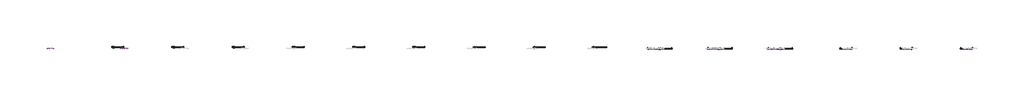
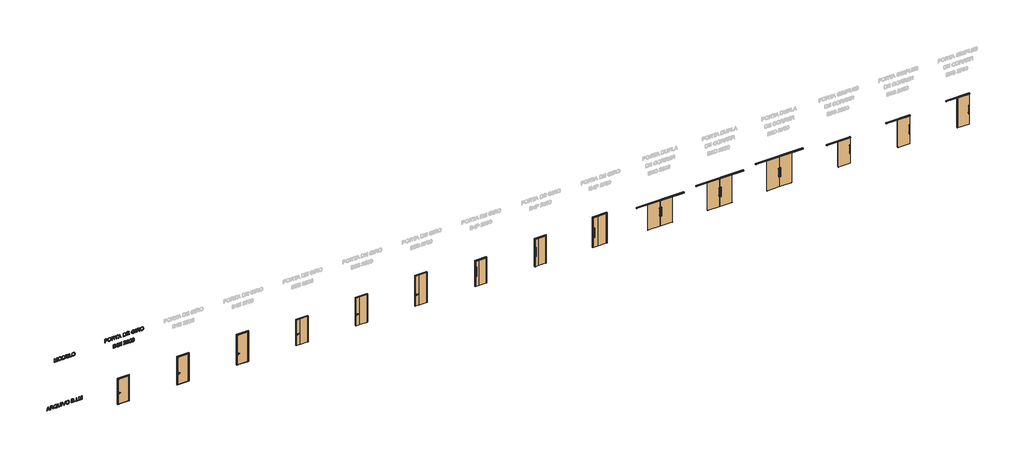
# One storey, part 1 of 13: 15 doors, 3 proxies.
"""IFC4 building model written with IfcOpenShell, lengths in millimetres."""

from ifc_helpers import new_model, si_unit, frame, origin, place, context, project, spatial, polyline, outline, extrude, transform, mapped, element, save
from components import b1e_2300_1c88b490, b1e_2500_260b8c9e, b1e_2700_324aea1f, b2d_2300_d5e7e25e, b2d_2500_7e9c2a50, b2d_2700_ec47df85, b2s_2300_ca406560, b2s_2500_bd1d7df3, b2s_2700_7e7753ac, b4p_2300_ee545821, b4p_2500_df99608c, b4p_2700_b218b246, b5s_2300_fc662f62, b5s_2500_13a7fe8a, b5s_2700_1f91ca55

model = new_model("IFC4")

# Units and contexts
model_context = context("Model", 3, world=origin())
ifc_project = project(units=[si_unit("LENGTHUNIT", "METRE", prefix="MILLI")], contexts=[model_context])

# Site, building, storey
site = spatial("IfcSite", under=ifc_project)
building = spatial("IfcBuilding", under=site)
storey = spatial("IfcBuildingStorey", under=building, Name="02 - Marelli - Planta Baixa - Portas", Elevation=-12000.0)

# Proxies
placement = place(None, origin())
element("IfcBuildingElementProxy", 1, Name="300mm Arial", ObjectType="300mm Arial", at=placement, inside=storey, context=model_context, shape_type="SweptSolid", body=[
    extrude(outline(polyline([(-10400.0, -7636.3146377), (-10400.0, -7596.5098058), (-10305.8222092, -7562.076051), (-10305.8222092, -7437.9526659), (-10400.0, -7403.4453347), (-10400.0, -7363.6405028), (-10098.6310696, -7483.9379153), (-10098.6310696, -7516.0172252), (-10400.0, -7636.3146377)]), holes=[polyline([(-10268.1510929, -7548.243688), (-10187.584936, -7518.739552), (-10136.3021859, -7499.9775703), (-10194.0596591, -7478.8611437), (-10268.1510929, -7451.7114525), (-10268.1510929, -7548.243688)])]), frame((0.0, 8778.3159498, 0.0), z_axis=(0.0, 1.0, 0.0), x_axis=(0.0, 0.0, 1.0)), (0.0, 0.0, 1.0), 10.0),
    extrude(outline(polyline([(-10400.0, -7323.3942126), (-10400.0, -7285.7230963), (-10268.1510929, -7285.7230963), (-10268.1510929, -7240.2528817), (-10269.4754681, -7218.4006911), (-10276.649167, -7200.484838), (-10296.183701, -7180.582422), (-10337.5336372, -7152.2555084), (-10400.0, -7113.0392877), (-10400.0, -7069.2613303), (-10318.3301971, -7119.5140108), (-10279.5554348, -7150.0482164), (-10263.4422034, -7171.4589486), (-10253.4542072, -7134.3488523), (-10245.4389783, -7119.9669655), (-10235.4095954, -7108.3671864), (-10210.7982899, -7093.0540983), (-10181.1102129, -7087.9497357), (-10157.2438684, -7091.0307474), (-10135.5296337, -7100.2737825), (-10118.0184507, -7114.6763626), (-10106.7612616, -7133.2360093), (-10100.6636176, -7158.629064), (-10098.6310696, -7193.5318683), (-10098.6310696, -7323.3942126), (-10400.0, -7323.3942126)]), holes=[polyline([(-10230.4799766, -7285.7230963), (-10136.3021859, -7285.7230963), (-10136.3021859, -7191.9131875), (-10139.5579415, -7162.1055488), (-10149.3252085, -7141.5501423), (-10164.1324588, -7129.6031746), (-10182.5081645, -7125.620852), (-10195.8162956, -7127.7085823), (-10208.0759631, -7133.9717732), (-10218.2111121, -7144.254075), (-10225.1456877, -7158.3991377), (-10229.1464044, -7177.1887106), (-10230.4799766, -7201.404543), (-10230.4799766, -7285.7230963)])]), frame((0.0, 8778.3159498, 0.0), z_axis=(0.0, 1.0, 0.0), x_axis=(0.0, 0.0, 1.0)), (0.0, 0.0, 1.0), 10.0),
    extrude(outline(polyline([(-10363.8739881, -6795.6307023), (-10340.3479345, -6777.1814202), (-10313.0326963, -6764.0664271), (-10281.9650618, -6756.2305406), (-10247.1818192, -6753.6185784), (-10205.3536364, -6757.9227978), (-10168.0136138, -6770.8354558), (-10136.8172207, -6791.9610794), (-10113.4199258, -6820.9041954), (-10098.7966164, -6855.7702114), (-10093.92218, -6894.6645354), (-10098.6862519, -6933.2553567), (-10112.9784674, -6967.9466288), (-10136.3849593, -6996.93573), (-10168.4918604, -7018.4200386), (-10206.944726, -7031.7189727), (-10249.3891112, -7036.1519507), (-10291.7967082, -7031.7097756), (-10329.6977507, -7018.3832504), (-10361.3539964, -6996.8161684), (-10385.0272028, -6967.6523232), (-10399.7884679, -6932.8322924), (-10404.7088895, -6894.2966534), (-10400.4414584, -6855.9449554), (-10387.639165, -6821.0881364), (-10408.47968, -6790.1308665), (-10422.8822601, -6759.063232), (-10395.2911105, -6748.9096889), (-10382.4704229, -6771.2953083), (-10363.8739881, -6795.6307023)]), holes=[polyline([(-10313.7684603, -6883.9223811), (-10342.6104088, -6893.6344658), (-10349.287467, -6873.2721974), (-10359.3122513, -6853.9767867), (-10365.1063928, -6873.6032912), (-10367.0377732, -6894.5173826), (-10365.1362832, -6916.2385151), (-10359.431813, -6935.9316982), (-10349.9243627, -6953.5969318), (-10336.6139322, -6969.2342158), (-10319.748842, -6982.0296115), (-10299.5774124, -6991.1691798), (-10276.0996433, -6996.6529208), (-10249.3155348, -6998.4808344), (-10221.8140564, -6996.6322274), (-10197.9500112, -6991.0864063), (-10177.7233993, -6981.8433712), (-10161.1342205, -6968.903122), (-10148.2100662, -6953.1577726), (-10138.9785274, -6935.4994369), (-10133.4396041, -6915.9281147), (-10131.5932963, -6894.4438062), (-10135.2445251, -6865.9605427), (-10146.1982115, -6840.4019411), (-10163.7645768, -6819.2027411), (-10187.2538422, -6803.7976826), (-10215.9394408, -6794.4166917), (-10249.0948056, -6791.2896947), (-10278.2678478, -6793.5015852), (-10303.5413409, -6800.1372567), (-10324.9152848, -6811.1967092), (-10342.3896796, -6826.6799427), (-10325.7430193, -6852.2477413), (-10313.7684603, -6883.9223811)])]), frame((0.0, 8778.3159498, 0.0), z_axis=(0.0, 1.0, 0.0), x_axis=(0.0, 0.0, 1.0)), (0.0, 0.0, 1.0), 10.0),
    extrude(outline(polyline([(-10098.6310696, -6499.3385434), (-10271.1677253, -6499.3385434), (-10318.3301971, -6504.1026152), (-10335.0688279, -6510.057705), (-10347.2457219, -6518.3948307), (-10355.9047444, -6529.5278596), (-10362.0897604, -6543.8706589), (-10367.0377732, -6582.1855687), (-10364.5361757, -6606.3554158), (-10357.031383, -6626.4785609), (-10344.9188683, -6641.9112106), (-10328.5941047, -6652.0095714), (-10305.0220659, -6657.5829836), (-10271.1677253, -6659.4407877), (-10098.6310696, -6659.4407877), (-10098.6310696, -6697.111904), (-10272.4921005, -6697.111904), (-10315.2675795, -6694.2516215), (-10347.9446977, -6685.6707739), (-10372.3076828, -6670.4036711), (-10390.1407625, -6647.4846228), (-10401.0668578, -6616.904432), (-10404.7088895, -6578.6539015), (-10400.5242318, -6539.5480454), (-10387.9702588, -6508.7563224), (-10368.7484245, -6486.2235502), (-10344.5601833, -6471.8945465), (-10313.2074403, -6464.2242069), (-10272.4921005, -6461.6674271), (-10098.6310696, -6461.6674271), (-10098.6310696, -6499.3385434)])), frame((0.0, 8778.3159498, 0.0), z_axis=(0.0, 1.0, 0.0), x_axis=(0.0, 0.0, 1.0)), (0.0, 0.0, 1.0), 10.0),
    extrude(outline(polyline([(-6353.3629677, 8778.3159498), (-6391.034084, 8778.3159498), (-6391.034084, 8788.3159498), (-6353.3629677, 8788.3159498), (-6353.3629677, 8778.3159498)])), frame((0.0, 0.0, -10400.0), z_axis=(0.0, 0.0, 1.0), x_axis=(1.0, 0.0, 0.0)), (0.0, 0.0, 1.0), 301.3689304),
    extrude(outline(polyline([(-10400.0, -6188.9932922), (-10400.0, -6150.0713771), (-10098.6310696, -6035.2186183), (-10098.6310696, -6075.5384849), (-10315.7550231, -6156.0310655), (-10364.6833285, -6172.0707205), (-10315.7550231, -6188.3311046), (-10098.6310696, -6268.602956), (-10098.6310696, -6308.9228227), (-10400.0, -6188.9932922)])), frame((0.0, 8778.3159498, 0.0), z_axis=(0.0, 1.0, 0.0), x_axis=(0.0, 0.0, 1.0)), (0.0, 0.0, 1.0), 10.0),
    extrude(outline(polyline([(-10253.2886603, -6014.3229209), (-10291.8334964, -6010.0187016), (-10328.2997991, -5997.1060436), (-10359.992833, -5975.8424642), (-10384.2178624, -5946.485481), (-10399.5861328, -5910.8377157), (-10404.7088895, -5870.70179), (-10400.0735764, -5832.892718), (-10386.167637, -5797.7507904), (-10363.2485887, -5767.7868019), (-10331.5739489, -5745.5115471), (-10293.1118863, -5731.6883811), (-10249.8305696, -5727.0806591), (-10207.1194699, -5731.4584548), (-10169.1908362, -5744.5918421), (-10137.5713787, -5766.0761506), (-10113.7878078, -5795.5067102), (-10098.8885869, -5830.9521404), (-10093.92218, -5870.4810608), (-10096.5663319, -5900.7715446), (-10104.4987874, -5928.1465636), (-10117.7195466, -5952.6061177), (-10136.2286095, -5974.1502071), (-10159.4097737, -5991.7257694), (-10186.6468369, -6004.2797425), (-10217.9397991, -6011.8121263), (-10253.2886603, -6014.3229209)]), holes=[polyline([(-10253.6565423, -5976.6518046), (-10223.1200375, -5974.6882345), (-10197.2878236, -5968.797524), (-10176.1599008, -5958.9796733), (-10159.736269, -5945.2346822), (-10147.4237184, -5928.7673644), (-10138.6290395, -5910.7825334), (-10133.3522321, -5891.2801891), (-10131.5932963, -5870.2603316), (-10135.2445251, -5841.0964864), (-10146.1982115, -5814.9676677), (-10163.7921679, -5793.3086153), (-10187.3642068, -5777.5540688), (-10216.1877611, -5767.9523488), (-10249.536264, -5764.7517754), (-10276.0743514, -5766.6210758), (-10299.4026684, -5772.228977), (-10319.521215, -5781.5754789), (-10336.4299912, -5794.6605816), (-10349.8208959, -5810.642755), (-10359.3858277, -5828.6804691), (-10365.1247869, -5848.7737238), (-10367.0377732, -5870.9225192), (-10365.143181, -5892.6988341), (-10359.4594041, -5912.557564), (-10349.9864428, -5930.4987091), (-10336.7242968, -5946.5222692), (-10320.1650085, -5959.703941), (-10300.80062, -5969.1194208), (-10278.6311313, -5974.7687087), (-10253.6565423, -5976.6518046)])]), frame((0.0, 8778.3159498, 0.0), z_axis=(0.0, 1.0, 0.0), x_axis=(0.0, 0.0, 1.0)), (0.0, 0.0, 1.0), 10.0),
    extrude(outline(polyline([(-10400.0, -5557.5606357), (-10400.0, -5443.4436408), (-10394.8128639, -5395.1407348), (-10388.3933231, -5377.10532), (-10379.5089729, -5362.3624491), (-10367.2401083, -5350.3235108), (-10350.6670244, -5340.399894), (-10331.1784758, -5333.7504269), (-10310.1632168, -5331.5339379), (-10284.944906, -5334.7804965), (-10263.2950506, -5344.5201723), (-10246.3356906, -5360.2931129), (-10235.1888662, -5381.6394656), (-10223.4442335, -5363.7695977), (-10208.5174215, -5351.0684718), (-10191.456894, -5343.4809057), (-10173.3111146, -5340.951717), (-10153.5926396, -5343.9591523), (-10134.7570815, -5352.9814582), (-10118.7450176, -5367.3104619), (-10107.4970256, -5386.2379906), (-10100.8475586, -5410.9320695), (-10098.6310696, -5442.560724), (-10098.6310696, -5557.5606357), (-10400.0, -5557.5606357)]), holes=[polyline([(-10221.0621975, -5519.8895194), (-10136.3021859, -5519.8895194), (-10136.3021859, -5456.3195106), (-10140.2385232, -5407.9062401), (-10145.8395266, -5395.4166463), (-10154.769862, -5386.2012024), (-10166.2109921, -5380.5174255), (-10179.3443793, -5378.6228333), (-10192.8732397, -5380.6553813), (-10203.8821084, -5386.7530254), (-10212.2422267, -5396.8605832), (-10217.824836, -5410.9228724), (-10221.0621975, -5451.0955863), (-10221.0621975, -5519.8895194)]), polyline([(-10362.3288837, -5519.8895194), (-10258.7333139, -5519.8895194), (-10258.7333139, -5446.3131204), (-10259.9933097, -5419.4853259), (-10263.7732972, -5399.776048), (-10270.6618875, -5385.8609115), (-10281.247692, -5376.4155413), (-10294.7857494, -5371.007676), (-10310.5310988, -5369.2050542), (-10324.0875503, -5370.7409615), (-10335.9149564, -5375.3486835), (-10352.6535872, -5391.0204565), (-10360.8573557, -5414.6752688), (-10362.3288837, -5442.6343004), (-10362.3288837, -5519.8895194)])]), frame((0.0, 8778.3159498, 0.0), z_axis=(0.0, 1.0, 0.0), x_axis=(0.0, 0.0, 1.0)), (0.0, 0.0, 1.0), 10.0),
    extrude(outline(polyline([(-5237.3561471, 8778.3159498), (-5275.0272634, 8778.3159498), (-5275.0272634, 8788.3159498), (-5237.3561471, 8788.3159498), (-5237.3561471, 8778.3159498)])), frame((0.0, 0.0, -10400.0), z_axis=(0.0, 0.0, 1.0), x_axis=(1.0, 0.0, 0.0)), (0.0, 0.0, 1.0), 37.6711163),
    extrude(outline(polyline([(-5119.6339087, 8778.3159498), (-5157.305025, 8778.3159498), (-5157.305025, 8788.3159498), (-5119.6339087, 8788.3159498), (-5119.6339087, 8778.3159498)])), frame((0.0, 0.0, -10400.0), z_axis=(0.0, 0.0, 1.0), x_axis=(1.0, 0.0, 0.0)), (0.0, 0.0, 1.0), 301.3689304),
    extrude(outline(polyline([(-5001.9116702, 8778.3159498), (-5039.5827865, 8778.3159498), (-5039.5827865, 8788.3159498), (-5001.9116702, 8788.3159498), (-5001.9116702, 8778.3159498)])), frame((0.0, 0.0, -10400.0), z_axis=(0.0, 0.0, 1.0), x_axis=(1.0, 0.0, 0.0)), (0.0, 0.0, 1.0), 37.6711163),
    extrude(outline(polyline([(-10400.0, -4926.5694376), (-10400.0, -4888.8983213), (-10136.3021859, -4888.8983213), (-10400.0, -4813.1882067), (-10400.0, -4762.1261857), (-10136.3021859, -4686.4160711), (-10400.0, -4686.4160711), (-10400.0, -4648.7449548), (-10098.6310696, -4648.7449548), (-10098.6310696, -4713.5657624), (-10307.3673136, -4774.1927152), (-10355.4127022, -4787.6571962), (-10311.0461336, -4800.0916076), (-10098.6310696, -4861.74863), (-10098.6310696, -4926.5694376), (-10400.0, -4926.5694376)])), frame((0.0, 8778.3159498, 0.0), z_axis=(0.0, 1.0, 0.0), x_axis=(0.0, 0.0, 1.0)), (0.0, 0.0, 1.0), 10.0),
])
element("IfcBuildingElementProxy", 2, Name="300mm Arial", ObjectType="300mm Arial", at=placement, inside=storey, context=model_context, shape_type="SweptSolid", body=[
    extrude(outline(polyline([(-6300.0, -6993.7719449), (-6300.0, -6956.1008286), (-6036.3021859, -6956.1008286), (-6300.0, -6880.390714), (-6300.0, -6829.328693), (-6036.3021859, -6753.6185784), (-6300.0, -6753.6185784), (-6300.0, -6715.9474621), (-5998.6310696, -6715.9474621), (-5998.6310696, -6780.7682697), (-6207.3673136, -6841.3952225), (-6255.4127022, -6854.8597035), (-6211.0461336, -6867.2941149), (-5998.6310696, -6928.9511373), (-5998.6310696, -6993.7719449), (-6300.0, -6993.7719449)])), frame((0.0, 8778.3159498, 0.0), z_axis=(0.0, 1.0, 0.0), x_axis=(0.0, 0.0, 1.0)), (0.0, 0.0, 1.0), 10.0),
    extrude(outline(polyline([(-6153.2886603, -6664.1496772), (-6191.8334964, -6659.8454579), (-6228.2997991, -6646.9327998), (-6259.992833, -6625.6692205), (-6284.2178624, -6596.3122373), (-6299.5861328, -6560.664472), (-6304.7088895, -6520.5285463), (-6300.0735764, -6482.7194742), (-6286.167637, -6447.5775466), (-6263.2485887, -6417.6135581), (-6231.5739489, -6395.3383033), (-6193.1118863, -6381.5151374), (-6149.8305696, -6376.9074154), (-6107.1194699, -6381.2852111), (-6069.1908362, -6394.4185983), (-6037.5713787, -6415.9029069), (-6013.7878078, -6445.3334665), (-5998.8885869, -6480.7788967), (-5993.92218, -6520.3078171), (-5996.5663319, -6550.5983009), (-6004.4987874, -6577.9733198), (-6017.7195466, -6602.432874), (-6036.2286095, -6623.9769633), (-6059.4097737, -6641.5525257), (-6086.6468369, -6654.1064987), (-6117.9397991, -6661.6388826), (-6153.2886603, -6664.1496772)]), holes=[polyline([(-6153.6565423, -6626.4785609), (-6123.1200375, -6624.5149908), (-6097.2878236, -6618.6242803), (-6076.1599008, -6608.8064296), (-6059.736269, -6595.0614385), (-6047.4237184, -6578.5941207), (-6038.6290395, -6560.6092897), (-6033.3522321, -6541.1069454), (-6031.5932963, -6520.0870879), (-6035.2445251, -6490.9232427), (-6046.1982115, -6464.794424), (-6063.7921679, -6443.1353716), (-6087.3642068, -6427.3808251), (-6116.1877611, -6417.779105), (-6149.536264, -6414.5785317), (-6176.0743514, -6416.4478321), (-6199.4026684, -6422.0557332), (-6219.521215, -6431.4022352), (-6236.4299912, -6444.4873379), (-6249.8208959, -6460.4695113), (-6259.3858277, -6478.5072254), (-6265.1247869, -6498.6004801), (-6267.0377732, -6520.7492755), (-6265.143181, -6542.5255903), (-6259.4594041, -6562.3843203), (-6249.9864428, -6580.3254653), (-6236.7242968, -6596.3490255), (-6220.1650085, -6609.5306972), (-6200.80062, -6618.9461771), (-6178.6311313, -6624.5954649), (-6153.6565423, -6626.4785609)])]), frame((0.0, 8778.3159498, 0.0), z_axis=(0.0, 1.0, 0.0), x_axis=(0.0, 0.0, 1.0)), (0.0, 0.0, 1.0), 10.0),
    extrude(outline(polyline([(-6300.0, -6325.1096305), (-6300.0, -6216.1429835), (-6294.8496521, -6167.6929247), (-6288.4944906, -6148.1491937), (-6279.7297021, -6131.6772774), (-6267.911493, -6117.3298796), (-6252.3960698, -6104.1597042), (-6232.7419742, -6092.7185741), (-6208.5077478, -6083.5583124), (-6180.0428784, -6077.5434418), (-6147.696854, -6075.5384849), (-6109.6210675, -6078.499935), (-6076.0334413, -6087.3842852), (-6047.4857985, -6102.2283237), (-6024.529962, -6123.0688387), (-6011.3413925, -6143.3391366), (-6002.9720771, -6167.3618309), (-5998.6310696, -6221.1461786), (-5998.6310696, -6325.1096305), (-6300.0, -6325.1096305)]), holes=[polyline([(-6262.3288837, -6287.4385141), (-6036.3021859, -6287.4385141), (-6036.3021859, -6221.8083662), (-6037.810502, -6190.06015), (-6042.3354506, -6168.3919005), (-6054.9170148, -6147.10073), (-6075.7391357, -6129.2860444), (-6106.0526121, -6117.228712), (-6147.1082428, -6113.2096012), (-6178.0931038, -6115.2605434), (-6204.0931639, -6121.4133697), (-6225.2003933, -6131.245016), (-6241.5067628, -6144.332418), (-6250.3175366, -6156.5093121), (-6256.8842302, -6172.2914497), (-6260.9677203, -6193.2055411), (-6262.3288837, -6220.7782966), (-6262.3288837, -6287.4385141)])]), frame((0.0, 8778.3159498, 0.0), z_axis=(0.0, 1.0, 0.0), x_axis=(0.0, 0.0, 1.0)), (0.0, 0.0, 1.0), 10.0),
    extrude(outline(polyline([(-6300.0, -6023.7407), (-6300.0, -5802.4228917), (-6262.3288837, -5802.4228917), (-6262.3288837, -5986.0695837), (-6163.4422034, -5986.0695837), (-6163.4422034, -5816.5495603), (-6125.7710871, -5816.5495603), (-6125.7710871, -5986.0695837), (-6036.3021859, -5986.0695837), (-6036.3021859, -5807.1317812), (-5998.6310696, -5807.1317812), (-5998.6310696, -6023.7407), (-6300.0, -6023.7407)])), frame((0.0, 8778.3159498, 0.0), z_axis=(0.0, 1.0, 0.0), x_axis=(0.0, 0.0, 1.0)), (0.0, 0.0, 1.0), 10.0),
    extrude(outline(polyline([(-6300.0, -5745.9162172), (-6300.0, -5557.5606357), (-6262.3288837, -5557.5606357), (-6262.3288837, -5708.2451009), (-5998.6310696, -5708.2451009), (-5998.6310696, -5745.9162172), (-6300.0, -5745.9162172)])), frame((0.0, 8778.3159498, 0.0), z_axis=(0.0, 1.0, 0.0), x_axis=(0.0, 0.0, 1.0)), (0.0, 0.0, 1.0), 10.0),
    extrude(outline(polyline([(-6153.2886603, -5529.3072985), (-6191.8334964, -5525.0030791), (-6228.2997991, -5512.0904211), (-6259.992833, -5490.8268418), (-6284.2178624, -5461.4698586), (-6299.5861328, -5425.8220932), (-6304.7088895, -5385.6861676), (-6300.0735764, -5347.8770955), (-6286.167637, -5312.7351679), (-6263.2485887, -5282.7711794), (-6231.5739489, -5260.4959246), (-6193.1118863, -5246.6727586), (-6149.8305696, -5242.0650367), (-6107.1194699, -5246.4428324), (-6069.1908362, -5259.5762196), (-6037.5713787, -5281.0605281), (-6013.7878078, -5310.4910878), (-5998.8885869, -5345.936518), (-5993.92218, -5385.4654384), (-5996.5663319, -5415.7559222), (-6004.4987874, -5443.1309411), (-6017.7195466, -5467.5904953), (-6036.2286095, -5489.1345846), (-6059.4097737, -5506.7101469), (-6086.6468369, -5519.26412), (-6117.9397991, -5526.7965039), (-6153.2886603, -5529.3072985)]), holes=[polyline([(-6153.6565423, -5491.6361822), (-6123.1200375, -5489.672612), (-6097.2878236, -5483.7819016), (-6076.1599008, -5473.9640508), (-6059.736269, -5460.2190598), (-6047.4237184, -5443.751742), (-6038.6290395, -5425.7669109), (-6033.3522321, -5406.2645667), (-6031.5932963, -5385.2447092), (-6035.2445251, -5356.080864), (-6046.1982115, -5329.9520453), (-6063.7921679, -5308.2929928), (-6087.3642068, -5292.5384464), (-6116.1877611, -5282.9367263), (-6149.536264, -5279.736153), (-6176.0743514, -5281.6054533), (-6199.4026684, -5287.2133545), (-6219.521215, -5296.5598565), (-6236.4299912, -5309.6449592), (-6249.8208959, -5325.6271326), (-6259.3858277, -5343.6648467), (-6265.1247869, -5363.7581014), (-6267.0377732, -5385.9068968), (-6265.143181, -5407.6832116), (-6259.4594041, -5427.5419416), (-6249.9864428, -5445.4830866), (-6236.7242968, -5461.5066468), (-6220.1650085, -5474.6883185), (-6200.80062, -5484.1037983), (-6178.6311313, -5489.7530862), (-6153.6565423, -5491.6361822)])]), frame((0.0, 8778.3159498, 0.0), z_axis=(0.0, 1.0, 0.0), x_axis=(0.0, 0.0, 1.0)), (0.0, 0.0, 1.0), 10.0),
])
element("IfcBuildingElementProxy", 3, Name="300mm Arial", ObjectType="300mm Arial", at=placement, inside=storey, context=model_context, shape_type="SweptSolid", body=[
    extrude(outline(polyline([(-6049.0625952, -2751.9031605), (-6049.0625952, -2714.2320442), (-5926.6314672, -2714.2320442), (-5926.6314672, -2637.6390128), (-5924.9668012, -2608.4406787), (-5919.9728031, -2584.1213796), (-5911.6494729, -2564.6811154), (-5899.9968107, -2550.1198862), (-5885.93912, -2539.5133884), (-5870.4007042, -2531.9373186), (-5853.3815634, -2527.3916767), (-5834.8816976, -2525.8764627), (-5813.4249802, -2528.1205429), (-5793.7892787, -2534.8527834), (-5777.1426184, -2545.2730409), (-5764.6530247, -2558.5811721), (-5755.9250244, -2575.1082707), (-5750.5631443, -2595.1854306), (-5747.6936647, -2640.2141868), (-5747.6936647, -2751.9031605), (-6049.0625952, -2751.9031605)]), holes=[polyline([(-5888.9603509, -2714.2320442), (-5785.364781, -2714.2320442), (-5785.364781, -2636.3146377), (-5787.939955, -2598.6435214), (-5794.2675253, -2584.4156852), (-5805.0096796, -2573.2228755), (-5819.283501, -2565.9664031), (-5836.2060728, -2563.547579), (-5858.4813276, -2567.6494633), (-5875.1279879, -2579.955116), (-5885.5022601, -2602.0280357), (-5888.9603509, -2635.4317209), (-5888.9603509, -2714.2320442)])]), frame((0.0, 8778.3159498, 0.0), z_axis=(0.0, 1.0, 0.0), x_axis=(0.0, 0.0, 1.0)), (0.0, 0.0, 1.0), 10.0),
    extrude(outline(polyline([(-5902.3512555, -2488.2053464), (-5940.8960916, -2483.9011271), (-5977.3623943, -2470.988469), (-6009.0554282, -2449.7248897), (-6033.2804576, -2420.3679065), (-6048.6487279, -2384.7201412), (-6053.7714847, -2344.5842155), (-6049.1361716, -2306.7751434), (-6035.2302322, -2271.6332158), (-6012.3111839, -2241.6692273), (-5980.6365441, -2219.3939725), (-5942.1744815, -2205.5708066), (-5898.8931648, -2200.9630846), (-5856.1820651, -2205.3408803), (-5818.2534314, -2218.4742675), (-5786.6339739, -2239.9585761), (-5762.8504029, -2269.3891357), (-5747.9511821, -2304.8345659), (-5742.9847752, -2344.3634863), (-5745.628927, -2374.6539701), (-5753.5613826, -2402.028989), (-5766.7821418, -2426.4885432), (-5785.2912046, -2448.0326325), (-5808.4723689, -2465.6081949), (-5835.7094321, -2478.1621679), (-5867.0023943, -2485.6945518), (-5902.3512555, -2488.2053464)]), holes=[polyline([(-5902.7191375, -2450.5342301), (-5872.1826326, -2448.5706599), (-5846.3504188, -2442.6799495), (-5825.222496, -2432.8620988), (-5808.7988641, -2419.1171077), (-5796.4863136, -2402.6497899), (-5787.6916347, -2384.6649589), (-5782.4148273, -2365.1626146), (-5780.6558915, -2344.1427571), (-5784.3071203, -2314.9789119), (-5795.2608067, -2288.8500932), (-5812.8547631, -2267.1910408), (-5836.426802, -2251.4364943), (-5865.2503563, -2241.8347742), (-5898.5988592, -2238.6342009), (-5925.1369466, -2240.5035013), (-5948.4652636, -2246.1114024), (-5968.5838102, -2255.4579044), (-5985.4925864, -2268.5430071), (-5998.883491, -2284.5251805), (-6008.4484229, -2302.5628946), (-6014.187382, -2322.6561493), (-6016.1003684, -2344.8049447), (-6014.2057761, -2366.5812595), (-6008.5219993, -2386.4399895), (-5999.0490379, -2404.3811345), (-5985.786892, -2420.4046947), (-5969.2276037, -2433.5863664), (-5949.8632152, -2443.0018462), (-5927.6937264, -2448.6511341), (-5902.7191375, -2450.5342301)])]), frame((0.0, 8778.3159498, 0.0), z_axis=(0.0, 1.0, 0.0), x_axis=(0.0, 0.0, 1.0)), (0.0, 0.0, 1.0), 10.0),
    extrude(outline(polyline([(-6049.0625952, -2149.1652997), (-6049.0625952, -2111.4941833), (-5917.2136881, -2111.4941833), (-5917.2136881, -2066.0239687), (-5918.5380633, -2044.1717782), (-5925.7117622, -2026.2559251), (-5945.2462961, -2006.3535091), (-5986.5962324, -1978.0265955), (-6049.0625952, -1938.8103748), (-6049.0625952, -1895.0324174), (-5967.3927923, -1945.2850979), (-5928.61803, -1975.8193035), (-5912.5047986, -1997.2300356), (-5902.5168024, -1960.1199394), (-5894.5015734, -1945.7380526), (-5884.4721905, -1934.1382735), (-5859.8608851, -1918.8251854), (-5830.1728081, -1913.7208227), (-5806.3064636, -1916.8018344), (-5784.5922289, -1926.0448696), (-5767.0810459, -1940.4474497), (-5755.8238568, -1959.0070963), (-5749.7262128, -1984.4001511), (-5747.6936647, -2019.3029554), (-5747.6936647, -2149.1652997), (-6049.0625952, -2149.1652997)]), holes=[polyline([(-5879.5425718, -2111.4941833), (-5785.364781, -2111.4941833), (-5785.364781, -2017.6842746), (-5788.6205367, -1987.8766359), (-5798.3878037, -1967.3212294), (-5813.195054, -1955.3742616), (-5831.5707596, -1951.391939), (-5844.8788908, -1953.4796694), (-5857.1385583, -1959.7428603), (-5867.2737073, -1970.0251621), (-5874.2082829, -1984.1702248), (-5878.2089996, -2002.9597977), (-5879.5425718, -2027.17563), (-5879.5425718, -2111.4941833)])]), frame((0.0, 8778.3159498, 0.0), z_axis=(0.0, 1.0, 0.0), x_axis=(0.0, 0.0, 1.0)), (0.0, 0.0, 1.0), 10.0),
    extrude(outline(polyline([(-6049.0625952, -1772.4541366), (-6049.0625952, -1734.7830203), (-5785.364781, -1734.7830203), (-5785.364781, -1635.89634), (-5747.6936647, -1635.89634), (-5747.6936647, -1871.3408169), (-5785.364781, -1871.3408169), (-5785.364781, -1772.4541366), (-6049.0625952, -1772.4541366)])), frame((0.0, 8778.3159498, 0.0), z_axis=(0.0, 1.0, 0.0), x_axis=(0.0, 0.0, 1.0)), (0.0, 0.0, 1.0), 10.0),
    extrude(outline(polyline([(-6049.0625952, -1628.6122765), (-6049.0625952, -1588.8074446), (-5954.8848044, -1554.3736898), (-5954.8848044, -1430.2503047), (-6049.0625952, -1395.7429735), (-6049.0625952, -1355.9381417), (-5747.6936647, -1476.2355541), (-5747.6936647, -1508.3148641), (-6049.0625952, -1628.6122765)]), holes=[polyline([(-5917.2136881, -1540.5413268), (-5836.6475312, -1511.0371908), (-5785.364781, -1492.2752091), (-5843.1222543, -1471.1587825), (-5917.2136881, -1444.0090913), (-5917.2136881, -1540.5413268)])]), frame((0.0, 8778.3159498, 0.0), z_axis=(0.0, 1.0, 0.0), x_axis=(0.0, 0.0, 1.0)), (0.0, 0.0, 1.0), 10.0),
    extrude(outline(polyline([(-6049.0625952, -1197.9696129), (-6049.0625952, -1089.0029659), (-6043.9122473, -1040.5529072), (-6037.5570858, -1021.0091762), (-6028.7922972, -1004.5372599), (-6016.9740882, -990.189862), (-6001.458665, -977.0196866), (-5981.8045694, -965.5785566), (-5957.570343, -956.4182949), (-5929.1054736, -950.4034243), (-5896.7594492, -948.3984674), (-5858.6836627, -951.3599175), (-5825.0960365, -960.2442676), (-5796.5483937, -975.0883061), (-5773.5925572, -995.9288212), (-5760.4039877, -1016.1991191), (-5752.0346723, -1040.2218134), (-5747.6936647, -1094.0061611), (-5747.6936647, -1197.9696129), (-6049.0625952, -1197.9696129)]), holes=[polyline([(-6011.3914789, -1160.2984966), (-5785.364781, -1160.2984966), (-5785.364781, -1094.6683487), (-5786.8730972, -1062.9201325), (-5791.3980458, -1041.251883), (-5803.97961, -1019.9607125), (-5824.8017309, -1002.1460269), (-5855.1152073, -990.0886945), (-5896.170838, -986.0695837), (-5927.155699, -988.1205258), (-5953.155759, -994.2733522), (-5974.2629885, -1004.1049985), (-5990.5693579, -1017.1924005), (-5999.3801317, -1029.3692945), (-6005.9468253, -1045.1514321), (-6010.0303155, -1066.0655236), (-6011.3914789, -1093.6382791), (-6011.3914789, -1160.2984966)])]), frame((0.0, 8778.3159498, 0.0), z_axis=(0.0, 1.0, 0.0), x_axis=(0.0, 0.0, 1.0)), (0.0, 0.0, 1.0), 10.0),
    extrude(outline(polyline([(-6049.0625952, -896.6006825), (-6049.0625952, -675.2828742), (-6011.3914789, -675.2828742), (-6011.3914789, -858.9295662), (-5912.5047986, -858.9295662), (-5912.5047986, -689.4095428), (-5874.8336823, -689.4095428), (-5874.8336823, -858.9295662), (-5785.364781, -858.9295662), (-5785.364781, -679.9917637), (-5747.6936647, -679.9917637), (-5747.6936647, -896.6006825), (-6049.0625952, -896.6006825)])), frame((0.0, 8778.3159498, 0.0), z_axis=(0.0, 1.0, 0.0), x_axis=(0.0, 0.0, 1.0)), (0.0, 0.0, 1.0), 10.0),
    extrude(outline(polyline([(-5931.3403567, -359.7872751), (-5931.3403567, -275.0272634), (-5985.786892, -275.0272634), (-5996.4278787, -291.0761155), (-6006.4250719, -313.1766263), (-6013.6815443, -338.6248633), (-6016.1003684, -364.7168938), (-6012.890598, -394.2670151), (-6003.2612868, -422.1432733), (-5987.0192967, -445.9636325), (-5963.9714897, -463.3460568), (-5934.3293979, -473.9686494), (-5898.3045536, -477.5095136), (-5867.586407, -474.5664576), (-5839.1491287, -465.7372897), (-5810.1232393, -446.3499086), (-5798.1854686, -431.9105403), (-5788.7860836, -413.5348346), (-5782.6884395, -391.305565), (-5780.6558915, -365.305505), (-5782.5412867, -343.0946296), (-5788.1974724, -322.9622874), (-5796.9898521, -306.0765038), (-5808.2838293, -293.6053042), (-5823.2658236, -284.1783281), (-5843.1222543, -276.425215), (-5833.3365932, -241.6971547), (-5805.4971232, -251.2896777), (-5783.4885829, -264.4690502), (-5766.4924347, -282.2837358), (-5753.6901413, -305.7821982), (-5745.6611167, -333.6860476), (-5742.9847752, -364.7168938), (-5747.6016942, -406.9865351), (-5761.4524514, -444.032252), (-5784.803761, -474.446896), (-5817.9223376, -496.8233183), (-5857.4052727, -510.591302), (-5899.8496579, -515.1806299), (-5941.9905405, -510.5729079), (-5979.9743565, -496.7497419), (-6011.6397992, -473.8858759), (-6034.825562, -442.1560538), (-6049.035004, -403.9607057), (-6053.7714847, -361.7002615), (-6050.7916406, -329.3542371), (-6041.8521081, -297.7991589), (-6027.0080696, -267.1086035), (-6006.3147073, -237.3561471), (-5893.6692404, -237.3561471), (-5893.6692404, -359.7872751), (-5931.3403567, -359.7872751)])), frame((0.0, 8778.3159498, 0.0), z_axis=(0.0, 1.0, 0.0), x_axis=(0.0, 0.0, 1.0)), (0.0, 0.0, 1.0), 10.0),
    extrude(outline(polyline([(-133.7605773, 8778.3159498), (-171.4316936, 8778.3159498), (-171.4316936, 8788.3159498), (-133.7605773, 8788.3159498), (-133.7605773, 8778.3159498)])), frame((0.0, 0.0, -6049.0625952), z_axis=(0.0, 0.0, 1.0), x_axis=(1.0, 0.0, 0.0)), (0.0, 0.0, 1.0), 301.3689304),
    extrude(outline(polyline([(-6049.0625952, -58.4183447), (-6049.0625952, -20.7472284), (-5917.2136881, -20.7472284), (-5917.2136881, 24.7229862), (-5918.5380633, 46.5751768), (-5925.7117622, 64.4910299), (-5945.2462961, 84.3934459), (-5986.5962324, 112.7203595), (-6049.0625952, 151.9365802), (-6049.0625952, 195.7145376), (-5967.3927923, 145.4618571), (-5928.61803, 114.9276515), (-5912.5047986, 93.5169193), (-5902.5168024, 130.6270156), (-5894.5015734, 145.0089024), (-5884.4721905, 156.6086815), (-5859.8608851, 171.9217696), (-5830.1728081, 177.0261323), (-5806.3064636, 173.9451205), (-5784.5922289, 164.7020854), (-5767.0810459, 150.2995053), (-5755.8238568, 131.7398586), (-5749.7262128, 106.3468039), (-5747.6936647, 71.4439996), (-5747.6936647, -58.4183447), (-6049.0625952, -58.4183447)]), holes=[polyline([(-5879.5425718, -20.7472284), (-5785.364781, -20.7472284), (-5785.364781, 73.0626804), (-5788.6205367, 102.8703191), (-5798.3878037, 123.4257256), (-5813.195054, 135.3726933), (-5831.5707596, 139.3550159), (-5844.8788908, 137.2672856), (-5857.1385583, 131.0040947), (-5867.2737073, 120.7217929), (-5874.2082829, 106.5767302), (-5878.2089996, 87.7871573), (-5879.5425718, 63.5713249), (-5879.5425718, -20.7472284)])]), frame((0.0, 8778.3159498, 0.0), z_axis=(0.0, 1.0, 0.0), x_axis=(0.0, 0.0, 1.0)), (0.0, 0.0, 1.0), 10.0),
    extrude(outline(polyline([(-5902.3512555, 228.8239172), (-5940.8960916, 233.1281365), (-5977.3623943, 246.0407945), (-6009.0554282, 267.3043739), (-6033.2804576, 296.6613571), (-6048.6487279, 332.3091224), (-6053.7714847, 372.4450481), (-6049.1361716, 410.2541201), (-6035.2302322, 445.3960477), (-6012.3111839, 475.3600362), (-5980.6365441, 497.635291), (-5942.1744815, 511.458457), (-5898.8931648, 516.066179), (-5856.1820651, 511.6883833), (-5818.2534314, 498.554996), (-5786.6339739, 477.0706875), (-5762.8504029, 447.6401279), (-5747.9511821, 412.1946977), (-5742.9847752, 372.6657773), (-5745.628927, 342.3752935), (-5753.5613826, 315.0002745), (-5766.7821418, 290.5407204), (-5785.2912046, 268.996631), (-5808.4723689, 251.4210687), (-5835.7094321, 238.8670956), (-5867.0023943, 231.3347118), (-5902.3512555, 228.8239172)]), holes=[polyline([(-5902.7191375, 266.4950335), (-5872.1826326, 268.4586036), (-5846.3504188, 274.3493141), (-5825.222496, 284.1671648), (-5808.7988641, 297.9121559), (-5796.4863136, 314.3794737), (-5787.6916347, 332.3643047), (-5782.4148273, 351.866649), (-5780.6558915, 372.8865065), (-5784.3071203, 402.0503517), (-5795.2608067, 428.1791704), (-5812.8547631, 449.8382228), (-5836.426802, 465.5927693), (-5865.2503563, 475.1944893), (-5898.5988592, 478.3950627), (-5925.1369466, 476.5257623), (-5948.4652636, 470.9178611), (-5968.5838102, 461.5713592), (-5985.4925864, 448.4862565), (-5998.883491, 432.5040831), (-6008.4484229, 414.466369), (-6014.187382, 394.3731143), (-6016.1003684, 372.2243189), (-6014.2057761, 350.448004), (-6008.5219993, 330.5892741), (-5999.0490379, 312.648129), (-5985.786892, 296.6245689), (-5969.2276037, 283.4428971), (-5949.8632152, 274.0274173), (-5927.6937264, 268.3781294), (-5902.7191375, 266.4950335)])]), frame((0.0, 8778.3159498, 0.0), z_axis=(0.0, 1.0, 0.0), x_axis=(0.0, 0.0, 1.0)), (0.0, 0.0, 1.0), 10.0),
    extrude(outline(polyline([(-6780.9115023, -2045.5697298), (-6780.9115023, -1931.4527349), (-6775.7243661, -1883.1498289), (-6769.3048253, -1865.1144141), (-6760.4204751, -1850.3715432), (-6748.1516106, -1838.3326049), (-6731.5785267, -1828.4089881), (-6712.089978, -1821.759521), (-6691.074719, -1819.543032), (-6665.8564083, -1822.7895906), (-6644.2065528, -1832.5292664), (-6627.2471929, -1848.3022069), (-6616.1003684, -1869.6485597), (-6604.3557357, -1851.7786918), (-6589.4289238, -1839.0775659), (-6572.3683962, -1831.4899998), (-6554.2226168, -1828.960811), (-6534.5041419, -1831.9682464), (-6515.6685837, -1840.9905523), (-6499.6565199, -1855.319556), (-6488.4085279, -1874.2470847), (-6481.7590608, -1898.9411636), (-6479.5425718, -1930.5698181), (-6479.5425718, -2045.5697298), (-6780.9115023, -2045.5697298)]), holes=[polyline([(-6743.2403859, -2007.8986135), (-6639.6448161, -2007.8986135), (-6639.6448161, -1934.3222145), (-6640.9048119, -1907.49442), (-6644.6847994, -1887.7851421), (-6651.5733898, -1873.8700056), (-6662.1591942, -1864.4246354), (-6675.6972516, -1859.0167701), (-6691.442601, -1857.2141483), (-6704.9990525, -1858.7500556), (-6716.8264587, -1863.3577776), (-6733.5650895, -1879.0295506), (-6741.768858, -1902.6843629), (-6743.2403859, -1930.6433945), (-6743.2403859, -2007.8986135)]), polyline([(-6601.9736998, -2007.8986135), (-6517.2136881, -2007.8986135), (-6517.2136881, -1944.3286047), (-6521.1500255, -1895.9153342), (-6526.7510288, -1883.4257404), (-6535.6813643, -1874.2102965), (-6547.1224943, -1868.5265196), (-6560.2558815, -1866.6319274), (-6573.7847419, -1868.6644754), (-6584.7936106, -1874.7621194), (-6593.153729, -1884.8696773), (-6598.7363382, -1898.9319665), (-6601.9736998, -1939.1046804), (-6601.9736998, -2007.8986135)])]), frame((0.0, 8778.3159498, 0.0), z_axis=(0.0, 1.0, 0.0), x_axis=(0.0, 0.0, 1.0)), (0.0, 0.0, 1.0), 10.0),
    extrude(outline(polyline([(-6780.9115023, -1640.6052295), (-6479.5425718, -1640.6052295), (-6479.5425718, -1664.8854412), (-6499.2794408, -1678.1935724), (-6519.6417093, -1698.399491), (-6538.7899671, -1724.031669), (-6554.8848044, -1753.6185784), (-6590.4957816, -1753.6185784), (-6571.4762824, -1713.9608994), (-6546.0556365, -1678.2763458), (-6780.9115023, -1678.2763458), (-6780.9115023, -1640.6052295)])), frame((0.0, 8778.3159498, 0.0), z_axis=(0.0, 1.0, 0.0), x_axis=(0.0, 0.0, 1.0)), (0.0, 0.0, 1.0), 10.0),
    extrude(outline(polyline([(-6780.9115023, -1537.0096597), (-6780.9115023, -1315.6918514), (-6743.2403859, -1315.6918514), (-6743.2403859, -1499.3385434), (-6644.3537056, -1499.3385434), (-6644.3537056, -1329.81852), (-6606.6825893, -1329.81852), (-6606.6825893, -1499.3385434), (-6517.2136881, -1499.3385434), (-6517.2136881, -1320.4007409), (-6479.5425718, -1320.4007409), (-6479.5425718, -1537.0096597), (-6780.9115023, -1537.0096597)])), frame((0.0, 8778.3159498, 0.0), z_axis=(0.0, 1.0, 0.0), x_axis=(0.0, 0.0, 1.0)), (0.0, 0.0, 1.0), 10.0),
    extrude(outline(polyline([(-6743.2403859, -962.525136), (-6743.2403859, -1110.4872745), (-6724.073734, -1093.4911263), (-6687.8373575, -1050.1546273), (-6658.8206651, -1017.4591149), (-6636.2235136, -996.1863386), (-6617.2959849, -982.8414192), (-6599.2881612, -973.9294779), (-6581.5838402, -968.9078886), (-6563.5668195, -967.2340255), (-6546.4143215, -968.7860277), (-6530.7149573, -973.4420342), (-6516.4687271, -981.2020451), (-6503.6756307, -992.0660602), (-6493.1174174, -1005.5926213), (-6485.5758365, -1021.34027), (-6481.050888, -1039.3090062), (-6479.5425718, -1059.4988299), (-6484.9688312, -1097.3814784), (-6491.7516555, -1113.1153315), (-6501.2476095, -1126.7108705), (-6513.3279345, -1137.9105779), (-6527.8638719, -1146.4569365), (-6564.3025835, -1155.5896071), (-6569.011473, -1117.9184908), (-6547.3616176, -1113.8441977), (-6530.9724747, -1102.0627768), (-6520.6533848, -1083.8066328), (-6517.2136881, -1060.3081703), (-6520.7361582, -1037.931748), (-6531.3035685, -1020.2458211), (-6546.9845386, -1008.7403117), (-6565.8476879, -1004.9051419), (-6586.890538, -1008.9702379), (-6608.5219993, -1021.165526), (-6635.1750499, -1045.5561023), (-6671.2826677, -1086.2070628), (-6694.3396717, -1113.7062419), (-6714.9502605, -1133.3695346), (-6734.6411443, -1146.9627743), (-6754.9390334, -1156.2517947), (-6780.9115023, -1160.2984966), (-6780.9115023, -962.525136), (-6743.2403859, -962.525136)])), frame((0.0, 8778.3159498, 0.0), z_axis=(0.0, 1.0, 0.0), x_axis=(0.0, 0.0, 1.0)), (0.0, 0.0, 1.0), 10.0),
    extrude(outline(polyline([(-6700.8603801, -924.8540197), (-6718.7532406, -921.6028626), (-6734.9078588, -915.5282111), (-6749.3242344, -906.6300654), (-6762.0023677, -894.9084253), (-6772.3352532, -880.9289095), (-6779.7158858, -865.2571365), (-6784.1442653, -847.8931063), (-6785.6203918, -828.836819), (-6783.8913464, -807.7525821), (-6778.7042103, -788.5721346), (-6770.0589834, -771.2954764), (-6757.9556658, -755.9226075), (-6743.3691446, -743.3042551), (-6727.2743074, -734.2911462), (-6709.6711539, -728.8832809), (-6690.5596842, -727.0806591), (-6663.593934, -730.6859026), (-6641.5578025, -741.5016333), (-6625.3342065, -758.9760281), (-6615.8060628, -782.557264), (-6604.9351499, -764.6046226), (-6590.8636635, -751.6551764), (-6574.345762, -743.8192899), (-6556.1356032, -741.2073277), (-6536.5918722, -743.9572456), (-6518.1333931, -752.2069994), (-6502.1121322, -765.6530863), (-6489.8800559, -783.9920037), (-6482.1269428, -805.7430267), (-6479.5425718, -829.4254302), (-6484.7848902, -862.3140805), (-6500.5118455, -889.316619), (-6525.7669445, -909.053488), (-6559.593694, -920.1451302), (-6564.3025835, -882.4740139), (-6543.7011918, -875.7969556), (-6528.985912, -864.0063377), (-6520.1567441, -847.8563181), (-6517.2136881, -828.101055), (-6520.1291529, -808.38258), (-6528.8755474, -792.6372306), (-6542.0733139, -782.3181407), (-6558.3428952, -778.878444), (-6577.8774291, -783.6241218), (-6591.5994275, -797.861155), (-6599.7112255, -818.0394824), (-6602.4151582, -840.6090428), (-6601.9736998, -846.6423075), (-6639.6448161, -850.8361623), (-6635.5245378, -824.422235), (-6639.3781017, -800.7306345), (-6650.9387934, -781.6007708), (-6668.385597, -768.9640242), (-6689.8974966, -764.7517754), (-6712.5590276, -769.0008124), (-6731.2474329, -781.7479236), (-6743.7738148, -801.6871277), (-6747.9492755, -827.5124438), (-6744.914249, -849.5209841), (-6735.8091696, -866.3975707), (-6719.824697, -878.7492087), (-6696.1514906, -887.1829034), (-6700.8603801, -924.8540197)])), frame((0.0, 8778.3159498, 0.0), z_axis=(0.0, 1.0, 0.0), x_axis=(0.0, 0.0, 1.0)), (0.0, 0.0, 1.0), 10.0),
    extrude(outline(polyline([(-6632.6550582, -694.1184323), (-6672.0966066, -692.2422342), (-6705.9555457, -686.6136396), (-6734.2318756, -677.2326487), (-6756.9255962, -664.0992615), (-6769.4795693, -650.4140513), (-6778.4466929, -634.3743963), (-6783.8269671, -615.9802966), (-6785.6203918, -595.231752), (-6781.4909164, -564.7803199), (-6769.1024902, -540.0862409), (-6748.3171575, -520.9839683), (-6718.9969625, -507.3079552), (-6680.6176733, -499.0857926), (-6632.6550582, -496.3450717), (-6592.6938765, -498.055723), (-6561.8377741, -503.1876768), (-6537.5391683, -511.0235633), (-6517.2504763, -520.8460126), (-6501.1096538, -533.8506411), (-6489.2546565, -551.2330654), (-6481.970593, -572.0183981), (-6479.5425718, -595.231752), (-6483.6444561, -625.5176373), (-6495.9501088, -650.1565339), (-6516.6526681, -669.2863977), (-6545.9452719, -683.0451843), (-6584.4165316, -691.3501203), (-6632.6550582, -694.1184323)]), holes=[polyline([(-6632.5814818, -656.447316), (-6574.0882446, -651.8855793), (-6553.0086062, -646.1834084), (-6537.3736214, -638.2003691), (-6522.2536714, -619.2544463), (-6517.2136881, -595.6732104), (-6522.9342531, -570.7675993), (-6540.0959482, -551.0859126), (-6554.4571416, -543.6179081), (-6574.6584617, -538.2836192), (-6632.5814818, -534.016188), (-6691.7461037, -538.430772), (-6712.0095038, -543.9490019), (-6726.0602968, -551.6745238), (-6742.4770308, -571.3929987), (-6747.9492755, -595.231752), (-6742.4954249, -619.0705053), (-6726.1338732, -638.7889803), (-6712.1060728, -646.5145022), (-6691.8380742, -652.0327321), (-6632.5814818, -656.447316)])]), frame((0.0, 8778.3159498, 0.0), z_axis=(0.0, 1.0, 0.0), x_axis=(0.0, 0.0, 1.0)), (0.0, 0.0, 1.0), 10.0),
    extrude(outline(polyline([(-6632.6550582, -463.382845), (-6672.0966066, -461.5066468), (-6705.9555457, -455.8780523), (-6734.2318756, -446.4970614), (-6756.9255962, -433.3636741), (-6769.4795693, -419.6784639), (-6778.4466929, -403.6388089), (-6783.8269671, -385.2447092), (-6785.6203918, -364.4961646), (-6781.4909164, -334.0447325), (-6769.1024902, -309.3506536), (-6748.3171575, -290.248381), (-6718.9969625, -276.5723678), (-6680.6176733, -268.3502052), (-6632.6550582, -265.6094843), (-6592.6938765, -267.3201356), (-6561.8377741, -272.4520895), (-6537.5391683, -280.287976), (-6517.2504763, -290.1104252), (-6501.1096538, -303.1150538), (-6489.2546565, -320.497478), (-6481.970593, -341.2828108), (-6479.5425718, -364.4961646), (-6483.6444561, -394.7820499), (-6495.9501088, -419.4209465), (-6516.6526681, -438.5508103), (-6545.9452719, -452.3095969), (-6584.4165316, -460.6145329), (-6632.6550582, -463.382845)]), holes=[polyline([(-6632.5814818, -425.7117286), (-6574.0882446, -421.1499919), (-6553.0086062, -415.447821), (-6537.3736214, -407.4647817), (-6522.2536714, -388.5188589), (-6517.2136881, -364.937623), (-6522.9342531, -340.032012), (-6540.0959482, -320.3503252), (-6554.4571416, -312.8823207), (-6574.6584617, -307.5480318), (-6632.5814818, -303.2806007), (-6691.7461037, -307.6951846), (-6712.0095038, -313.2134145), (-6726.0602968, -320.9389364), (-6742.4770308, -340.6574114), (-6747.9492755, -364.4961646), (-6742.4954249, -388.3349179), (-6726.1338732, -408.0533929), (-6712.1060728, -415.7789148), (-6691.8380742, -421.2971447), (-6632.5814818, -425.7117286)])]), frame((0.0, 8778.3159498, 0.0), z_axis=(0.0, 1.0, 0.0), x_axis=(0.0, 0.0, 1.0)), (0.0, 0.0, 1.0), 10.0),
])

# Doors
b1e_2300_shape = b1e_2300_1c88b490(model_context)
element("IfcDoor", 4, ObjectType="Mobiliário_Mobiliário de Escritório_Porta de Giro Emoldurada - BE_Marelli : B1E 2300", at=placement, inside=storey, context=model_context, shape_type="MappedRepresentation", body=[
    mapped(b1e_2300_shape, transform((-1124.9818251, 8888.3159498, -12000.0), x_axis=(-1.0, 0.0, 0.0), y_axis=(0.0, -1.0, 0.0), z_axis=(0.0, 0.0, 1.0))),
])
b1e_2500_shape = b1e_2500_260b8c9e(model_context)
element("IfcDoor", 5, ObjectType="Mobiliário_Mobiliário de Escritório_Porta de Giro Emoldurada - BE_Marelli : B1E 2500", at=placement, inside=storey, context=model_context, shape_type="MappedRepresentation", body=[
    mapped(b1e_2500_shape, transform((3875.0181749, 8888.3159498, -12000.0), x_axis=(-1.0, 0.0, 0.0), y_axis=(0.0, -1.0, 0.0), z_axis=(0.0, 0.0, 1.0))),
])
b1e_2700_shape = b1e_2700_324aea1f(model_context)
element("IfcDoor", 6, ObjectType="Mobiliário_Mobiliário de Escritório_Porta de Giro Emoldurada - BE_Marelli : B1E 2700", at=placement, inside=storey, context=model_context, shape_type="MappedRepresentation", body=[
    mapped(b1e_2700_shape, transform((8875.0181749, 8888.3159498, -12000.0), x_axis=(-1.0, 0.0, 0.0), y_axis=(0.0, -1.0, 0.0), z_axis=(0.0, 0.0, 1.0))),
])
b2d_2300_shape = b2d_2300_d5e7e25e(model_context)
element("IfcDoor", 7, ObjectType="Mobiliário_Mobiliário de Escritório_Porta Dupla de Correr - BD_Marelli : B2D 2300", at=placement, inside=storey, context=model_context, shape_type="MappedRepresentation", body=[
    mapped(b2d_2300_shape, transform((42526.4446306, 8888.3159498, -12000.0), x_axis=(1.0, 0.0, 0.0), y_axis=(0.0, 1.0, 0.0), z_axis=(0.0, 0.0, 1.0))),
])
b2d_2500_shape = b2d_2500_7e9c2a50(model_context)
element("IfcDoor", 8, ObjectType="Mobiliário_Mobiliário de Escritório_Porta Dupla de Correr - BD_Marelli : B2D 2500", at=placement, inside=storey, context=model_context, shape_type="MappedRepresentation", body=[
    mapped(b2d_2500_shape, transform((47526.4446306, 8888.3159498, -12000.0), x_axis=(1.0, 0.0, 0.0), y_axis=(0.0, 1.0, 0.0), z_axis=(0.0, 0.0, 1.0))),
])
b2d_2700_shape = b2d_2700_ec47df85(model_context)
element("IfcDoor", 9, ObjectType="Mobiliário_Mobiliário de Escritório_Porta Dupla de Correr - BD_Marelli : B2D 2700", at=placement, inside=storey, context=model_context, shape_type="MappedRepresentation", body=[
    mapped(b2d_2700_shape, transform((52526.4446306, 8888.3159498, -12000.0), x_axis=(1.0, 0.0, 0.0), y_axis=(0.0, 1.0, 0.0), z_axis=(0.0, 0.0, 1.0))),
])
b2s_2300_shape = b2s_2300_ca406560(model_context)
element("IfcDoor", 10, ObjectType="Mobiliário_Mobiliário de Escritório_Porta Simples de Correr - BS_Marelli : B2S 2300", at=placement, inside=storey, context=model_context, shape_type="MappedRepresentation", body=[
    mapped(b2s_2300_shape, transform((58026.4446306, 8888.3159498, -12000.0), x_axis=(1.0, 0.0, 0.0), y_axis=(0.0, 1.0, 0.0), z_axis=(0.0, 0.0, 1.0))),
])
b2s_2500_shape = b2s_2500_bd1d7df3(model_context)
element("IfcDoor", 11, ObjectType="Mobiliário_Mobiliário de Escritório_Porta Simples de Correr - BS_Marelli : B2S 2500", at=placement, inside=storey, context=model_context, shape_type="MappedRepresentation", body=[
    mapped(b2s_2500_shape, transform((63026.4446306, 8888.3159498, -12000.0), x_axis=(1.0, 0.0, 0.0), y_axis=(0.0, 1.0, 0.0), z_axis=(0.0, 0.0, 1.0))),
])
b2s_2700_shape = b2s_2700_7e7753ac(model_context)
element("IfcDoor", 12, ObjectType="Mobiliário_Mobiliário de Escritório_Porta Simples de Correr - BS_Marelli : B2S 2700", at=placement, inside=storey, context=model_context, shape_type="MappedRepresentation", body=[
    mapped(b2s_2700_shape, transform((68026.4446306, 8888.3159498, -12000.0), x_axis=(1.0, 0.0, 0.0), y_axis=(0.0, 1.0, 0.0), z_axis=(0.0, 0.0, 1.0))),
])
b4p_2300_shape = b4p_2300_ee545821(model_context)
element("IfcDoor", 13, ObjectType="Mobiliário_Mobiliário de Escritório_Porta de Giro Pivotante - BP_Marelli : B4P 2300", at=placement, inside=storey, context=model_context, shape_type="MappedRepresentation", body=[
    mapped(b4p_2300_shape, transform((28875.0181749, 8888.3159498, -12000.0), x_axis=(-1.0, 0.0, 0.0), y_axis=(0.0, -1.0, 0.0), z_axis=(0.0, 0.0, 1.0))),
])
b4p_2500_shape = b4p_2500_df99608c(model_context)
element("IfcDoor", 14, ObjectType="Mobiliário_Mobiliário de Escritório_Porta de Giro Pivotante - BP_Marelli : B4P 2500", at=placement, inside=storey, context=model_context, shape_type="MappedRepresentation", body=[
    mapped(b4p_2500_shape, transform((33875.0181749, 8888.3159498, -12000.0), x_axis=(-1.0, 0.0, 0.0), y_axis=(0.0, -1.0, 0.0), z_axis=(0.0, 0.0, 1.0))),
])
b4p_2700_shape = b4p_2700_b218b246(model_context)
element("IfcDoor", 15, ObjectType="Mobiliário_Mobiliário de Escritório_Porta de Giro Pivotante - BP_Marelli : B4P 2700", at=placement, inside=storey, context=model_context, shape_type="MappedRepresentation", body=[
    mapped(b4p_2700_shape, transform((38875.0181749, 8888.3159498, -12000.0), x_axis=(-1.0, 0.0, 0.0), y_axis=(0.0, -1.0, 0.0), z_axis=(0.0, 0.0, 1.0))),
])
b5s_2300_shape = b5s_2300_fc662f62(model_context)
element("IfcDoor", 16, ObjectType="Mobiliário_Mobiliário de Escritório_Porta de Giro Emoldurada - BS_Marelli : B5S 2300", at=placement, inside=storey, context=model_context, shape_type="MappedRepresentation", body=[
    mapped(b5s_2300_shape, transform((13875.0181749, 8888.3159498, -12000.0), x_axis=(-1.0, 0.0, 0.0), y_axis=(0.0, -1.0, 0.0), z_axis=(0.0, 0.0, 1.0))),
])
b5s_2500_shape = b5s_2500_13a7fe8a(model_context)
element("IfcDoor", 17, ObjectType="Mobiliário_Mobiliário de Escritório_Porta de Giro Emoldurada - BS_Marelli : B5S 2500", at=placement, inside=storey, context=model_context, shape_type="MappedRepresentation", body=[
    mapped(b5s_2500_shape, transform((18875.0181749, 8888.3159498, -12000.0), x_axis=(-1.0, 0.0, 0.0), y_axis=(0.0, -1.0, 0.0), z_axis=(0.0, 0.0, 1.0))),
])
b5s_2700_shape = b5s_2700_1f91ca55(model_context)
element("IfcDoor", 18, ObjectType="Mobiliário_Mobiliário de Escritório_Porta de Giro Emoldurada - BS_Marelli : B5S 2700", at=placement, inside=storey, context=model_context, shape_type="MappedRepresentation", body=[
    mapped(b5s_2700_shape, transform((23875.0181749, 8888.3159498, -12000.0), x_axis=(-1.0, 0.0, 0.0), y_axis=(0.0, -1.0, 0.0), z_axis=(0.0, 0.0, 1.0))),
])

save(model, "model.ifc")
